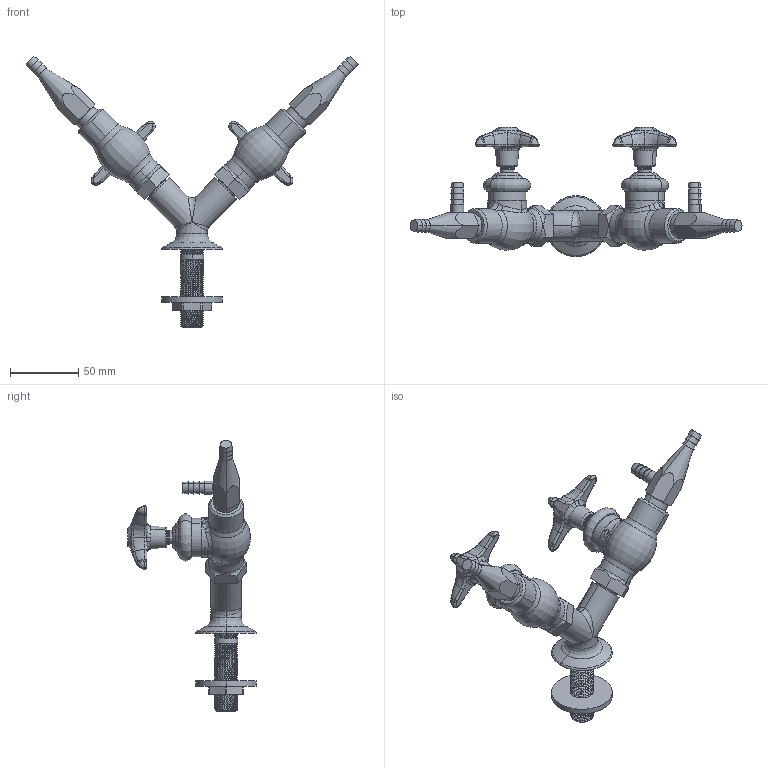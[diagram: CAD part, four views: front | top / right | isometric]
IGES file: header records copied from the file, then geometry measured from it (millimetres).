
Start section:  PTC IGES file: LWV1-C31-65.igs
Global section: file name: LWV1-C31-65.igs; native system: Creo Parametric by PTC Inc.; preprocessor: 2014500; author: usch_engrender; organization: Unknown; date: 20151112.152420; units: inch
Bounding box: 242.53 x 94.2 x 198.23 mm (x, y, z)
Volume: 230139.7 mm3; surface area: 55385 mm2
Topology: 1 solids, 8 shells, 680 faces, 1567 edges, 934 vertices
Faces by surface type: bspline 408, revolution 272
